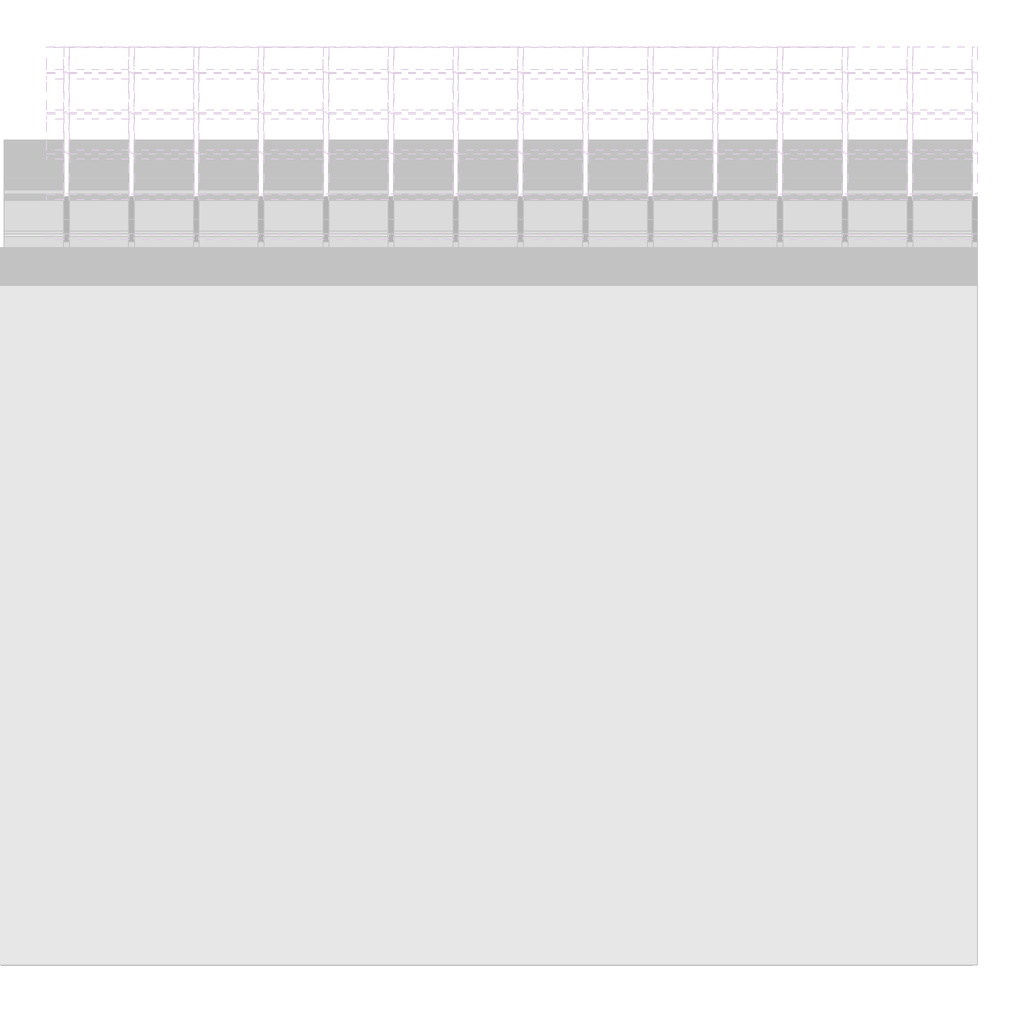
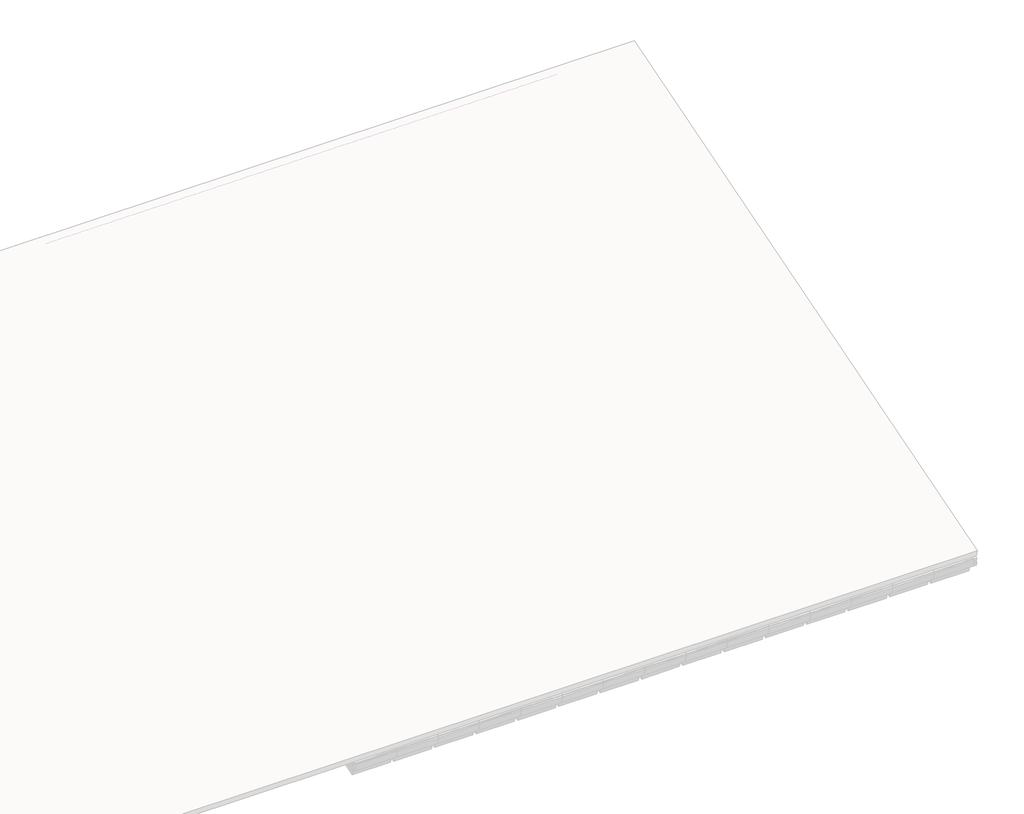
# One storey, part 47 of 57: 84 members, 40 plates.
"""IFC4 building model written with IfcOpenShell, lengths in millimetres."""

from ifc_helpers import new_model, si_unit, origin, place, context, project, spatial, transform, mapped, element, save
from components import rectangular_mullion_59984080, rectangular_mullion_2d2423ea, rectangular_mullion_caibro_e4384bba, rectangular_mullion_caibro_0993a3cf, rectangular_mullion_caibro_9bd7bc61, empty_system_panel_vazio_178faf58, empty_system_panel_vazio_2c78850d

model = new_model("IFC4")

# Units and contexts
model_context = context("Model", 3, world=origin())
ifc_project = project(units=[si_unit("LENGTHUNIT", "METRE", prefix="MILLI")], contexts=[model_context])

# Site, building, storey
site = spatial("IfcSite", under=ifc_project)
building = spatial("IfcBuilding", under=site)
storey = spatial("IfcBuildingStorey", under=building, Name="Nível 2", Elevation=4100.0)

# Members
placement = place(None, origin())
rectangular_mullion_shape = rectangular_mullion_59984080(model_context)
element("IfcMember", 1, ObjectType="Rectangular Mullion : Ripa", at=placement, inside=storey, context=model_context, shape_type="MappedRepresentation", body=[
    mapped(rectangular_mullion_shape, transform((38197.0207941, 8162.5832694, 3598.8241594), x_axis=(0.0, 0.9578262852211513, 0.2873478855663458), y_axis=(0.0, 0.2873478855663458, -0.9578262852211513), z_axis=(-1.0, 0.0, 0.0))),
])
element("IfcMember", 2, ObjectType="Rectangular Mullion : Ripa", at=placement, inside=storey, context=model_context, shape_type="MappedRepresentation", body=[
    mapped(rectangular_mullion_shape, transform((38794.0755505, 8162.5832694, 3598.8241594), x_axis=(0.0, 0.9578262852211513, 0.2873478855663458), y_axis=(0.0, 0.2873478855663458, -0.9578262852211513), z_axis=(-1.0, 0.0, 0.0))),
])
element("IfcMember", 3, ObjectType="Rectangular Mullion : Ripa", at=placement, inside=storey, context=model_context, shape_type="MappedRepresentation", body=[
    mapped(rectangular_mullion_shape, transform((39391.1303069, 8162.5832694, 3598.8241594), x_axis=(0.0, 0.9578262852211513, 0.2873478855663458), y_axis=(0.0, 0.2873478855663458, -0.9578262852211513), z_axis=(-1.0, 0.0, 0.0))),
])
element("IfcMember", 4, ObjectType="Rectangular Mullion : Ripa", at=placement, inside=storey, context=model_context, shape_type="MappedRepresentation", body=[
    mapped(rectangular_mullion_shape, transform((39988.1850634, 8162.5832694, 3598.8241594), x_axis=(0.0, 0.9578262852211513, 0.2873478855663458), y_axis=(0.0, 0.2873478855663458, -0.9578262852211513), z_axis=(-1.0, 0.0, 0.0))),
])
element("IfcMember", 5, ObjectType="Rectangular Mullion : Ripa", at=placement, inside=storey, context=model_context, shape_type="MappedRepresentation", body=[
    mapped(rectangular_mullion_shape, transform((38197.0207941, 8532.7605281, 3709.877337), x_axis=(0.0, 0.9578262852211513, 0.2873478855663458), y_axis=(0.0, 0.2873478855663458, -0.9578262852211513), z_axis=(-1.0, 0.0, 0.0))),
])
element("IfcMember", 6, ObjectType="Rectangular Mullion : Ripa", at=placement, inside=storey, context=model_context, shape_type="MappedRepresentation", body=[
    mapped(rectangular_mullion_shape, transform((38794.0755505, 8532.7605281, 3709.877337), x_axis=(0.0, 0.9578262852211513, 0.2873478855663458), y_axis=(0.0, 0.2873478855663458, -0.9578262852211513), z_axis=(-1.0, 0.0, 0.0))),
])
element("IfcMember", 7, ObjectType="Rectangular Mullion : Ripa", at=placement, inside=storey, context=model_context, shape_type="MappedRepresentation", body=[
    mapped(rectangular_mullion_shape, transform((39391.1303069, 8532.7605281, 3709.877337), x_axis=(0.0, 0.9578262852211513, 0.2873478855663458), y_axis=(0.0, 0.2873478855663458, -0.9578262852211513), z_axis=(-1.0, 0.0, 0.0))),
])
element("IfcMember", 8, ObjectType="Rectangular Mullion : Ripa", at=placement, inside=storey, context=model_context, shape_type="MappedRepresentation", body=[
    mapped(rectangular_mullion_shape, transform((39988.1850634, 8532.7605281, 3709.877337), x_axis=(0.0, 0.9578262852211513, 0.2873478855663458), y_axis=(0.0, 0.2873478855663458, -0.9578262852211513), z_axis=(-1.0, 0.0, 0.0))),
])
element("IfcMember", 9, ObjectType="Rectangular Mullion : Ripa", at=placement, inside=storey, context=model_context, shape_type="MappedRepresentation", body=[
    mapped(rectangular_mullion_shape, transform((38197.0207941, 8902.9377868, 3820.9305146), x_axis=(0.0, 0.9578262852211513, 0.2873478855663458), y_axis=(0.0, 0.2873478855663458, -0.9578262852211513), z_axis=(-1.0, 0.0, 0.0))),
])
element("IfcMember", 10, ObjectType="Rectangular Mullion : Ripa", at=placement, inside=storey, context=model_context, shape_type="MappedRepresentation", body=[
    mapped(rectangular_mullion_shape, transform((38794.0755505, 8902.9377868, 3820.9305146), x_axis=(0.0, 0.9578262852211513, 0.2873478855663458), y_axis=(0.0, 0.2873478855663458, -0.9578262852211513), z_axis=(-1.0, 0.0, 0.0))),
])
element("IfcMember", 11, ObjectType="Rectangular Mullion : Ripa", at=placement, inside=storey, context=model_context, shape_type="MappedRepresentation", body=[
    mapped(rectangular_mullion_shape, transform((39391.1303069, 8902.9377868, 3820.9305146), x_axis=(0.0, 0.9578262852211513, 0.2873478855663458), y_axis=(0.0, 0.2873478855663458, -0.9578262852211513), z_axis=(-1.0, 0.0, 0.0))),
])
element("IfcMember", 12, ObjectType="Rectangular Mullion : Ripa", at=placement, inside=storey, context=model_context, shape_type="MappedRepresentation", body=[
    mapped(rectangular_mullion_shape, transform((39988.1850634, 8902.9377868, 3820.9305146), x_axis=(0.0, 0.9578262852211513, 0.2873478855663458), y_axis=(0.0, 0.2873478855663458, -0.9578262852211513), z_axis=(-1.0, 0.0, 0.0))),
])
element("IfcMember", 13, ObjectType="Rectangular Mullion : Ripa", at=placement, inside=storey, context=model_context, shape_type="MappedRepresentation", body=[
    mapped(rectangular_mullion_shape, transform((37002.9112812, 9273.1150454, 3931.9836922), x_axis=(0.0, 0.9578262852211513, 0.2873478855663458), y_axis=(0.0, 0.2873478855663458, -0.9578262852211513), z_axis=(-1.0, 0.0, 0.0))),
])
element("IfcMember", 14, ObjectType="Rectangular Mullion : Ripa", at=placement, inside=storey, context=model_context, shape_type="MappedRepresentation", body=[
    mapped(rectangular_mullion_shape, transform((37599.9660377, 9273.1150454, 3931.9836922), x_axis=(0.0, 0.9578262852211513, 0.2873478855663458), y_axis=(0.0, 0.2873478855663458, -0.9578262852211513), z_axis=(-1.0, 0.0, 0.0))),
])
element("IfcMember", 15, ObjectType="Rectangular Mullion : Ripa", at=placement, inside=storey, context=model_context, shape_type="MappedRepresentation", body=[
    mapped(rectangular_mullion_shape, transform((38197.0207941, 9273.1150454, 3931.9836922), x_axis=(0.0, 0.9578262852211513, 0.2873478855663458), y_axis=(0.0, 0.2873478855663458, -0.9578262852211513), z_axis=(-1.0, 0.0, 0.0))),
])
element("IfcMember", 16, ObjectType="Rectangular Mullion : Ripa", at=placement, inside=storey, context=model_context, shape_type="MappedRepresentation", body=[
    mapped(rectangular_mullion_shape, transform((38794.0755505, 9273.1150454, 3931.9836922), x_axis=(0.0, 0.9578262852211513, 0.2873478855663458), y_axis=(0.0, 0.2873478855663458, -0.9578262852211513), z_axis=(-1.0, 0.0, 0.0))),
])
element("IfcMember", 17, ObjectType="Rectangular Mullion : Ripa", at=placement, inside=storey, context=model_context, shape_type="MappedRepresentation", body=[
    mapped(rectangular_mullion_shape, transform((39391.1303069, 9273.1150454, 3931.9836922), x_axis=(0.0, 0.9578262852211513, 0.2873478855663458), y_axis=(0.0, 0.2873478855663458, -0.9578262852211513), z_axis=(-1.0, 0.0, 0.0))),
])
element("IfcMember", 18, ObjectType="Rectangular Mullion : Ripa", at=placement, inside=storey, context=model_context, shape_type="MappedRepresentation", body=[
    mapped(rectangular_mullion_shape, transform((39988.1850634, 9273.1150454, 3931.9836922), x_axis=(0.0, 0.9578262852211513, 0.2873478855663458), y_axis=(0.0, 0.2873478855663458, -0.9578262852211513), z_axis=(-1.0, 0.0, 0.0))),
])
element("IfcMember", 19, ObjectType="Rectangular Mullion : Ripa", at=placement, inside=storey, context=model_context, shape_type="MappedRepresentation", body=[
    mapped(rectangular_mullion_shape, transform((37002.9112812, 9643.2923041, 4043.0368698), x_axis=(0.0, 0.9578262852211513, 0.2873478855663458), y_axis=(0.0, 0.2873478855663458, -0.9578262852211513), z_axis=(-1.0, 0.0, 0.0))),
])
element("IfcMember", 20, ObjectType="Rectangular Mullion : Ripa", at=placement, inside=storey, context=model_context, shape_type="MappedRepresentation", body=[
    mapped(rectangular_mullion_shape, transform((37599.9660377, 9643.2923041, 4043.0368698), x_axis=(0.0, 0.9578262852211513, 0.2873478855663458), y_axis=(0.0, 0.2873478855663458, -0.9578262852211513), z_axis=(-1.0, 0.0, 0.0))),
])
element("IfcMember", 21, ObjectType="Rectangular Mullion : Ripa", at=placement, inside=storey, context=model_context, shape_type="MappedRepresentation", body=[
    mapped(rectangular_mullion_shape, transform((38197.0207941, 9643.2923041, 4043.0368698), x_axis=(0.0, 0.9578262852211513, 0.2873478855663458), y_axis=(0.0, 0.2873478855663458, -0.9578262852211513), z_axis=(-1.0, 0.0, 0.0))),
])
element("IfcMember", 22, ObjectType="Rectangular Mullion : Ripa", at=placement, inside=storey, context=model_context, shape_type="MappedRepresentation", body=[
    mapped(rectangular_mullion_shape, transform((38794.0755505, 9643.2923041, 4043.0368698), x_axis=(0.0, 0.9578262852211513, 0.2873478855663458), y_axis=(0.0, 0.2873478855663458, -0.9578262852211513), z_axis=(-1.0, 0.0, 0.0))),
])
element("IfcMember", 23, ObjectType="Rectangular Mullion : Ripa", at=placement, inside=storey, context=model_context, shape_type="MappedRepresentation", body=[
    mapped(rectangular_mullion_shape, transform((39391.1303069, 9643.2923041, 4043.0368698), x_axis=(0.0, 0.9578262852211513, 0.2873478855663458), y_axis=(0.0, 0.2873478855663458, -0.9578262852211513), z_axis=(-1.0, 0.0, 0.0))),
])
element("IfcMember", 24, ObjectType="Rectangular Mullion : Ripa", at=placement, inside=storey, context=model_context, shape_type="MappedRepresentation", body=[
    mapped(rectangular_mullion_shape, transform((39988.1850634, 9643.2923041, 4043.0368698), x_axis=(0.0, 0.9578262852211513, 0.2873478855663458), y_axis=(0.0, 0.2873478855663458, -0.9578262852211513), z_axis=(-1.0, 0.0, 0.0))),
])
element("IfcMember", 25, ObjectType="Rectangular Mullion : Ripa", at=placement, inside=storey, context=model_context, shape_type="MappedRepresentation", body=[
    mapped(rectangular_mullion_shape, transform((36405.8565248, 10013.4695628, 4154.0900474), x_axis=(0.0, 0.9578262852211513, 0.2873478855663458), y_axis=(0.0, 0.2873478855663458, -0.9578262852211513), z_axis=(-1.0, 0.0, 0.0))),
])
element("IfcMember", 26, ObjectType="Rectangular Mullion : Ripa", at=placement, inside=storey, context=model_context, shape_type="MappedRepresentation", body=[
    mapped(rectangular_mullion_shape, transform((37002.9112812, 10013.4695628, 4154.0900474), x_axis=(0.0, 0.9578262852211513, 0.2873478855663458), y_axis=(0.0, 0.2873478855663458, -0.9578262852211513), z_axis=(-1.0, 0.0, 0.0))),
])
element("IfcMember", 27, ObjectType="Rectangular Mullion : Ripa", at=placement, inside=storey, context=model_context, shape_type="MappedRepresentation", body=[
    mapped(rectangular_mullion_shape, transform((37599.9660377, 10013.4695628, 4154.0900474), x_axis=(0.0, 0.9578262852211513, 0.2873478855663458), y_axis=(0.0, 0.2873478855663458, -0.9578262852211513), z_axis=(-1.0, 0.0, 0.0))),
])
element("IfcMember", 28, ObjectType="Rectangular Mullion : Ripa", at=placement, inside=storey, context=model_context, shape_type="MappedRepresentation", body=[
    mapped(rectangular_mullion_shape, transform((36405.8565248, 10383.6468214, 4265.143225), x_axis=(0.0, 0.9578262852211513, 0.2873478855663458), y_axis=(0.0, 0.2873478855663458, -0.9578262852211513), z_axis=(-1.0, 0.0, 0.0))),
])
element("IfcMember", 29, ObjectType="Rectangular Mullion : Ripa", at=placement, inside=storey, context=model_context, shape_type="MappedRepresentation", body=[
    mapped(rectangular_mullion_shape, transform((37002.9112812, 10383.6468214, 4265.143225), x_axis=(0.0, 0.9578262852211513, 0.2873478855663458), y_axis=(0.0, 0.2873478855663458, -0.9578262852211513), z_axis=(-1.0, 0.0, 0.0))),
])
element("IfcMember", 30, ObjectType="Rectangular Mullion : Ripa", at=placement, inside=storey, context=model_context, shape_type="MappedRepresentation", body=[
    mapped(rectangular_mullion_shape, transform((37599.9660377, 10383.6468214, 4265.143225), x_axis=(0.0, 0.9578262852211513, 0.2873478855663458), y_axis=(0.0, 0.2873478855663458, -0.9578262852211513), z_axis=(-1.0, 0.0, 0.0))),
])
element("IfcMember", 31, ObjectType="Rectangular Mullion : Ripa", at=placement, inside=storey, context=model_context, shape_type="MappedRepresentation", body=[
    mapped(rectangular_mullion_shape, transform((36405.8565248, 10753.8240801, 4376.1964026), x_axis=(0.0, 0.9578262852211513, 0.2873478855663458), y_axis=(0.0, 0.2873478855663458, -0.9578262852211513), z_axis=(-1.0, 0.0, 0.0))),
])
element("IfcMember", 32, ObjectType="Rectangular Mullion : Ripa", at=placement, inside=storey, context=model_context, shape_type="MappedRepresentation", body=[
    mapped(rectangular_mullion_shape, transform((37002.9112812, 10753.8240801, 4376.1964026), x_axis=(0.0, 0.9578262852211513, 0.2873478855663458), y_axis=(0.0, 0.2873478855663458, -0.9578262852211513), z_axis=(-1.0, 0.0, 0.0))),
])
element("IfcMember", 33, ObjectType="Rectangular Mullion : Ripa", at=placement, inside=storey, context=model_context, shape_type="MappedRepresentation", body=[
    mapped(rectangular_mullion_shape, transform((37599.9660377, 10753.8240801, 4376.1964026), x_axis=(0.0, 0.9578262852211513, 0.2873478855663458), y_axis=(0.0, 0.2873478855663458, -0.9578262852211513), z_axis=(-1.0, 0.0, 0.0))),
])
element("IfcMember", 34, ObjectType="Rectangular Mullion : Ripa", at=placement, inside=storey, context=model_context, shape_type="MappedRepresentation", body=[
    mapped(rectangular_mullion_shape, transform((36405.8565248, 11124.0013387, 4487.2495802), x_axis=(0.0, 0.9578262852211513, 0.2873478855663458), y_axis=(0.0, 0.2873478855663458, -0.9578262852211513), z_axis=(-1.0, 0.0, 0.0))),
])
element("IfcMember", 35, ObjectType="Rectangular Mullion : Ripa", at=placement, inside=storey, context=model_context, shape_type="MappedRepresentation", body=[
    mapped(rectangular_mullion_shape, transform((36405.8565248, 11494.1785974, 4598.3027578), x_axis=(0.0, 0.9578262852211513, 0.2873478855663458), y_axis=(0.0, 0.2873478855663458, -0.9578262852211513), z_axis=(-1.0, 0.0, 0.0))),
])
element("IfcMember", 36, ObjectType="Rectangular Mullion : Ripa", at=placement, inside=storey, context=model_context, shape_type="MappedRepresentation", body=[
    mapped(rectangular_mullion_shape, transform((36405.8565248, 11864.3558561, 4709.3559354), x_axis=(0.0, 0.9578262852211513, 0.2873478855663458), y_axis=(0.0, 0.2873478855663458, -0.9578262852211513), z_axis=(-1.0, 0.0, 0.0))),
])
rectangular_mullion_2_shape = rectangular_mullion_2d2423ea(model_context)
element("IfcMember", 37, ObjectType="Rectangular Mullion : Terça", at=placement, inside=storey, context=model_context, shape_type="MappedRepresentation", body=[
    mapped(rectangular_mullion_2_shape, transform((37002.9112812, 9159.0196393, 3835.1132313), x_axis=(0.0, 0.9578262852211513, 0.2873478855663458), y_axis=(0.0, 0.2873478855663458, -0.9578262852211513), z_axis=(-1.0, 0.0, 0.0))),
])
element("IfcMember", 38, ObjectType="Rectangular Mullion : Terça", at=placement, inside=storey, context=model_context, shape_type="MappedRepresentation", body=[
    mapped(rectangular_mullion_2_shape, transform((37599.9660377, 9159.0196393, 3835.1132313), x_axis=(0.0, 0.9578262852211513, 0.2873478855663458), y_axis=(0.0, 0.2873478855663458, -0.9578262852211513), z_axis=(-1.0, 0.0, 0.0))),
])
element("IfcMember", 39, ObjectType="Rectangular Mullion : Terça", at=placement, inside=storey, context=model_context, shape_type="MappedRepresentation", body=[
    mapped(rectangular_mullion_2_shape, transform((38197.0207941, 9159.0196393, 3835.1132313), x_axis=(0.0, 0.9578262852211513, 0.2873478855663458), y_axis=(0.0, 0.2873478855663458, -0.9578262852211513), z_axis=(-1.0, 0.0, 0.0))),
])
element("IfcMember", 40, ObjectType="Rectangular Mullion : Terça", at=placement, inside=storey, context=model_context, shape_type="MappedRepresentation", body=[
    mapped(rectangular_mullion_2_shape, transform((38794.0755505, 9159.0196393, 3835.1132313), x_axis=(0.0, 0.9578262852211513, 0.2873478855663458), y_axis=(0.0, 0.2873478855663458, -0.9578262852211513), z_axis=(-1.0, 0.0, 0.0))),
])
element("IfcMember", 41, ObjectType="Rectangular Mullion : Terça", at=placement, inside=storey, context=model_context, shape_type="MappedRepresentation", body=[
    mapped(rectangular_mullion_2_shape, transform((39391.1303069, 9159.0196393, 3835.1132313), x_axis=(0.0, 0.9578262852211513, 0.2873478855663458), y_axis=(0.0, 0.2873478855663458, -0.9578262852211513), z_axis=(-1.0, 0.0, 0.0))),
])
element("IfcMember", 42, ObjectType="Rectangular Mullion : Terça", at=placement, inside=storey, context=model_context, shape_type="MappedRepresentation", body=[
    mapped(rectangular_mullion_2_shape, transform((39988.1850634, 9159.0196393, 3835.1132313), x_axis=(0.0, 0.9578262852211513, 0.2873478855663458), y_axis=(0.0, 0.2873478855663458, -0.9578262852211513), z_axis=(-1.0, 0.0, 0.0))),
])
rectangular_mullion_caibro_shape = rectangular_mullion_caibro_e4384bba(model_context)
element("IfcMember", 43, ObjectType="Rectangular Mullion : Caibro", at=placement, inside=storey, context=model_context, shape_type="MappedRepresentation", body=[
    mapped(rectangular_mullion_caibro_shape, transform((36380.8565248, 10013.4695628, 4154.0900474), x_axis=(1.0, 0.0, 0.0), y_axis=(0.0, 0.28734788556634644, -0.9578262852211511), z_axis=(0.0, 0.957826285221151, 0.2873478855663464))),
])
element("IfcMember", 44, ObjectType="Rectangular Mullion : Caibro", at=placement, inside=storey, context=model_context, shape_type="MappedRepresentation", body=[
    mapped(rectangular_mullion_caibro_shape, transform((36380.8565248, 10383.6468214, 4265.143225), x_axis=(1.0, 0.0, 0.0), y_axis=(0.0, 0.28734788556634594, -0.9578262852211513), z_axis=(0.0, 0.9578262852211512, 0.2873478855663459))),
])
element("IfcMember", 45, ObjectType="Rectangular Mullion : Caibro", at=placement, inside=storey, context=model_context, shape_type="MappedRepresentation", body=[
    mapped(rectangular_mullion_caibro_shape, transform((36380.8565248, 10753.8240801, 4376.1964026), x_axis=(1.0, 0.0, 0.0), y_axis=(0.0, 0.28734788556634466, -0.9578262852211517), z_axis=(0.0, 0.9578262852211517, 0.28734788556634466))),
])
element("IfcMember", 46, ObjectType="Rectangular Mullion : Caibro", at=placement, inside=storey, context=model_context, shape_type="MappedRepresentation", body=[
    mapped(rectangular_mullion_caibro_shape, transform((36380.8565248, 11124.0013387, 4487.2495802), x_axis=(1.0, 0.0, 0.0), y_axis=(0.0, 0.2873478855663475, -0.9578262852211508), z_axis=(0.0, 0.9578262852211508, 0.2873478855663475))),
])
element("IfcMember", 47, ObjectType="Rectangular Mullion : Caibro", at=placement, inside=storey, context=model_context, shape_type="MappedRepresentation", body=[
    mapped(rectangular_mullion_caibro_shape, transform((36380.8565248, 11494.1785974, 4598.3027578), x_axis=(1.0, 0.0, 0.0), y_axis=(0.0, 0.28734788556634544, -0.9578262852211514), z_axis=(0.0, 0.9578262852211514, 0.28734788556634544))),
])
element("IfcMember", 48, ObjectType="Rectangular Mullion : Caibro", at=placement, inside=storey, context=model_context, shape_type="MappedRepresentation", body=[
    mapped(rectangular_mullion_caibro_shape, transform((36380.8565248, 11864.3558561, 4709.3559354), x_axis=(1.0, 0.0, 0.0), y_axis=(0.0, 0.28734788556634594, -0.9578262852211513), z_axis=(0.0, 0.9578262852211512, 0.2873478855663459))),
])
element("IfcMember", 49, ObjectType="Rectangular Mullion : Caibro", at=placement, inside=storey, context=model_context, shape_type="MappedRepresentation", body=[
    mapped(rectangular_mullion_caibro_shape, transform((36977.9112812, 10013.4695628, 4154.0900474), x_axis=(1.0, 0.0, 0.0), y_axis=(0.0, 0.28734788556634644, -0.9578262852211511), z_axis=(0.0, 0.957826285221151, 0.2873478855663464))),
])
element("IfcMember", 50, ObjectType="Rectangular Mullion : Caibro", at=placement, inside=storey, context=model_context, shape_type="MappedRepresentation", body=[
    mapped(rectangular_mullion_caibro_shape, transform((36977.9112812, 10383.6468214, 4265.143225), x_axis=(1.0, 0.0, 0.0), y_axis=(0.0, 0.28734788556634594, -0.9578262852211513), z_axis=(0.0, 0.9578262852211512, 0.2873478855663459))),
])
element("IfcMember", 51, ObjectType="Rectangular Mullion : Caibro", at=placement, inside=storey, context=model_context, shape_type="MappedRepresentation", body=[
    mapped(rectangular_mullion_caibro_shape, transform((36977.9112812, 10753.8240801, 4376.1964026), x_axis=(1.0, 0.0, 0.0), y_axis=(0.0, 0.28734788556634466, -0.9578262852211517), z_axis=(0.0, 0.9578262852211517, 0.28734788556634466))),
])
element("IfcMember", 52, ObjectType="Rectangular Mullion : Caibro", at=placement, inside=storey, context=model_context, shape_type="MappedRepresentation", body=[
    mapped(rectangular_mullion_caibro_shape, transform((36977.9112812, 11124.0013387, 4487.2495802), x_axis=(1.0, 0.0, 0.0), y_axis=(0.0, 0.2873478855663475, -0.9578262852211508), z_axis=(0.0, 0.9578262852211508, 0.2873478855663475))),
])
element("IfcMember", 53, ObjectType="Rectangular Mullion : Caibro", at=placement, inside=storey, context=model_context, shape_type="MappedRepresentation", body=[
    mapped(rectangular_mullion_caibro_shape, transform((36977.9112812, 11494.1785974, 4598.3027578), x_axis=(1.0, 0.0, 0.0), y_axis=(0.0, 0.28734788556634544, -0.9578262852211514), z_axis=(0.0, 0.9578262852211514, 0.28734788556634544))),
])
element("IfcMember", 54, ObjectType="Rectangular Mullion : Caibro", at=placement, inside=storey, context=model_context, shape_type="MappedRepresentation", body=[
    mapped(rectangular_mullion_caibro_shape, transform((36977.9112812, 11864.3558561, 4709.3559354), x_axis=(1.0, 0.0, 0.0), y_axis=(0.0, 0.28734788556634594, -0.9578262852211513), z_axis=(0.0, 0.9578262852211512, 0.2873478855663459))),
])
element("IfcMember", 55, ObjectType="Rectangular Mullion : Caibro", at=placement, inside=storey, context=model_context, shape_type="MappedRepresentation", body=[
    mapped(rectangular_mullion_caibro_shape, transform((37574.9660377, 10013.4695628, 4154.0900474), x_axis=(1.0, 0.0, 0.0), y_axis=(0.0, 0.28734788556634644, -0.9578262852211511), z_axis=(0.0, 0.957826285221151, 0.2873478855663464))),
])
element("IfcMember", 56, ObjectType="Rectangular Mullion : Caibro", at=placement, inside=storey, context=model_context, shape_type="MappedRepresentation", body=[
    mapped(rectangular_mullion_caibro_shape, transform((37574.9660377, 10383.6468214, 4265.143225), x_axis=(1.0, 0.0, 0.0), y_axis=(0.0, 0.28734788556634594, -0.9578262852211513), z_axis=(0.0, 0.9578262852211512, 0.2873478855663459))),
])
element("IfcMember", 57, ObjectType="Rectangular Mullion : Caibro", at=placement, inside=storey, context=model_context, shape_type="MappedRepresentation", body=[
    mapped(rectangular_mullion_caibro_shape, transform((37574.9660377, 10753.8240801, 4376.1964026), x_axis=(1.0, 0.0, 0.0), y_axis=(0.0, 0.28734788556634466, -0.9578262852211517), z_axis=(0.0, 0.9578262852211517, 0.28734788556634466))),
])
element("IfcMember", 58, ObjectType="Rectangular Mullion : Caibro", at=placement, inside=storey, context=model_context, shape_type="MappedRepresentation", body=[
    mapped(rectangular_mullion_caibro_shape, transform((38172.0207941, 8162.5832694, 3598.8241594), x_axis=(1.0, 0.0, 0.0), y_axis=(0.0, 0.28734788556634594, -0.9578262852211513), z_axis=(0.0, 0.9578262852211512, 0.2873478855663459))),
])
element("IfcMember", 59, ObjectType="Rectangular Mullion : Caibro", at=placement, inside=storey, context=model_context, shape_type="MappedRepresentation", body=[
    mapped(rectangular_mullion_caibro_shape, transform((38172.0207941, 8532.7605281, 3709.877337), x_axis=(1.0, 0.0, 0.0), y_axis=(0.0, 0.2873478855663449, -0.9578262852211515), z_axis=(0.0, 0.9578262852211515, 0.2873478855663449))),
])
element("IfcMember", 60, ObjectType="Rectangular Mullion : Caibro", at=placement, inside=storey, context=model_context, shape_type="MappedRepresentation", body=[
    mapped(rectangular_mullion_caibro_shape, transform((38172.0207941, 8902.9377868, 3820.9305146), x_axis=(1.0, 0.0, 0.0), y_axis=(0.0, 0.2873478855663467, -0.9578262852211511), z_axis=(0.0, 0.9578262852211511, 0.2873478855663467))),
])
element("IfcMember", 61, ObjectType="Rectangular Mullion : Caibro", at=placement, inside=storey, context=model_context, shape_type="MappedRepresentation", body=[
    mapped(rectangular_mullion_caibro_shape, transform((38172.0207941, 9273.1150454, 3931.9836922), x_axis=(1.0, 0.0, 0.0), y_axis=(0.0, 0.2873478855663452, -0.9578262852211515), z_axis=(0.0, 0.9578262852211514, 0.28734788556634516))),
])
element("IfcMember", 62, ObjectType="Rectangular Mullion : Caibro", at=placement, inside=storey, context=model_context, shape_type="MappedRepresentation", body=[
    mapped(rectangular_mullion_caibro_shape, transform((38172.0207941, 9643.2923041, 4043.0368698), x_axis=(1.0, 0.0, 0.0), y_axis=(0.0, 0.2873478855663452, -0.9578262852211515), z_axis=(0.0, 0.9578262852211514, 0.28734788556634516))),
])
element("IfcMember", 63, ObjectType="Rectangular Mullion : Caibro", at=placement, inside=storey, context=model_context, shape_type="MappedRepresentation", body=[
    mapped(rectangular_mullion_caibro_shape, transform((38769.0755505, 8162.5832694, 3598.8241594), x_axis=(1.0, 0.0, 0.0), y_axis=(0.0, 0.28734788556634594, -0.9578262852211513), z_axis=(0.0, 0.9578262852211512, 0.2873478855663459))),
])
element("IfcMember", 64, ObjectType="Rectangular Mullion : Caibro", at=placement, inside=storey, context=model_context, shape_type="MappedRepresentation", body=[
    mapped(rectangular_mullion_caibro_shape, transform((38769.0755505, 8532.7605281, 3709.877337), x_axis=(1.0, 0.0, 0.0), y_axis=(0.0, 0.2873478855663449, -0.9578262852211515), z_axis=(0.0, 0.9578262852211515, 0.2873478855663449))),
])
element("IfcMember", 65, ObjectType="Rectangular Mullion : Caibro", at=placement, inside=storey, context=model_context, shape_type="MappedRepresentation", body=[
    mapped(rectangular_mullion_caibro_shape, transform((38769.0755505, 8902.9377868, 3820.9305146), x_axis=(1.0, 0.0, 0.0), y_axis=(0.0, 0.2873478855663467, -0.9578262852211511), z_axis=(0.0, 0.9578262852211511, 0.2873478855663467))),
])
element("IfcMember", 66, ObjectType="Rectangular Mullion : Caibro", at=placement, inside=storey, context=model_context, shape_type="MappedRepresentation", body=[
    mapped(rectangular_mullion_caibro_shape, transform((38769.0755505, 9273.1150454, 3931.9836922), x_axis=(1.0, 0.0, 0.0), y_axis=(0.0, 0.2873478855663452, -0.9578262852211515), z_axis=(0.0, 0.9578262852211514, 0.28734788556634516))),
])
element("IfcMember", 67, ObjectType="Rectangular Mullion : Caibro", at=placement, inside=storey, context=model_context, shape_type="MappedRepresentation", body=[
    mapped(rectangular_mullion_caibro_shape, transform((38769.0755505, 9643.2923041, 4043.0368698), x_axis=(1.0, 0.0, 0.0), y_axis=(0.0, 0.2873478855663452, -0.9578262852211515), z_axis=(0.0, 0.9578262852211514, 0.28734788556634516))),
])
element("IfcMember", 68, ObjectType="Rectangular Mullion : Caibro", at=placement, inside=storey, context=model_context, shape_type="MappedRepresentation", body=[
    mapped(rectangular_mullion_caibro_shape, transform((39366.1303069, 8162.5832694, 3598.8241594), x_axis=(1.0, 0.0, 0.0), y_axis=(0.0, 0.28734788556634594, -0.9578262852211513), z_axis=(0.0, 0.9578262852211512, 0.2873478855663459))),
])
element("IfcMember", 69, ObjectType="Rectangular Mullion : Caibro", at=placement, inside=storey, context=model_context, shape_type="MappedRepresentation", body=[
    mapped(rectangular_mullion_caibro_shape, transform((39366.1303069, 8532.7605281, 3709.877337), x_axis=(1.0, 0.0, 0.0), y_axis=(0.0, 0.2873478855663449, -0.9578262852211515), z_axis=(0.0, 0.9578262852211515, 0.2873478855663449))),
])
element("IfcMember", 70, ObjectType="Rectangular Mullion : Caibro", at=placement, inside=storey, context=model_context, shape_type="MappedRepresentation", body=[
    mapped(rectangular_mullion_caibro_shape, transform((39366.1303069, 8902.9377868, 3820.9305146), x_axis=(1.0, 0.0, 0.0), y_axis=(0.0, 0.2873478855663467, -0.9578262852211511), z_axis=(0.0, 0.9578262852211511, 0.2873478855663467))),
])
element("IfcMember", 71, ObjectType="Rectangular Mullion : Caibro", at=placement, inside=storey, context=model_context, shape_type="MappedRepresentation", body=[
    mapped(rectangular_mullion_caibro_shape, transform((39366.1303069, 9273.1150454, 3931.9836922), x_axis=(1.0, 0.0, 0.0), y_axis=(0.0, 0.2873478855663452, -0.9578262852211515), z_axis=(0.0, 0.9578262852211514, 0.28734788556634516))),
])
element("IfcMember", 72, ObjectType="Rectangular Mullion : Caibro", at=placement, inside=storey, context=model_context, shape_type="MappedRepresentation", body=[
    mapped(rectangular_mullion_caibro_shape, transform((39366.1303069, 9643.2923041, 4043.0368698), x_axis=(1.0, 0.0, 0.0), y_axis=(0.0, 0.2873478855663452, -0.9578262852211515), z_axis=(0.0, 0.9578262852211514, 0.28734788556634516))),
])
element("IfcMember", 73, ObjectType="Rectangular Mullion : Caibro", at=placement, inside=storey, context=model_context, shape_type="MappedRepresentation", body=[
    mapped(rectangular_mullion_caibro_shape, transform((39963.1850634, 8162.5832694, 3598.8241594), x_axis=(1.0, 0.0, 0.0), y_axis=(0.0, 0.28734788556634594, -0.9578262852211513), z_axis=(0.0, 0.9578262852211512, 0.2873478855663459))),
])
element("IfcMember", 74, ObjectType="Rectangular Mullion : Caibro", at=placement, inside=storey, context=model_context, shape_type="MappedRepresentation", body=[
    mapped(rectangular_mullion_caibro_shape, transform((39963.1850634, 8532.7605281, 3709.877337), x_axis=(1.0, 0.0, 0.0), y_axis=(0.0, 0.2873478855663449, -0.9578262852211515), z_axis=(0.0, 0.9578262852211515, 0.2873478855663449))),
])
element("IfcMember", 75, ObjectType="Rectangular Mullion : Caibro", at=placement, inside=storey, context=model_context, shape_type="MappedRepresentation", body=[
    mapped(rectangular_mullion_caibro_shape, transform((39963.1850634, 8902.9377868, 3820.9305146), x_axis=(1.0, 0.0, 0.0), y_axis=(0.0, 0.2873478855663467, -0.9578262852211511), z_axis=(0.0, 0.9578262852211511, 0.2873478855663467))),
])
element("IfcMember", 76, ObjectType="Rectangular Mullion : Caibro", at=placement, inside=storey, context=model_context, shape_type="MappedRepresentation", body=[
    mapped(rectangular_mullion_caibro_shape, transform((39963.1850634, 9273.1150454, 3931.9836922), x_axis=(1.0, 0.0, 0.0), y_axis=(0.0, 0.2873478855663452, -0.9578262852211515), z_axis=(0.0, 0.9578262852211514, 0.28734788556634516))),
])
element("IfcMember", 77, ObjectType="Rectangular Mullion : Caibro", at=placement, inside=storey, context=model_context, shape_type="MappedRepresentation", body=[
    mapped(rectangular_mullion_caibro_shape, transform((39963.1850634, 9643.2923041, 4043.0368698), x_axis=(1.0, 0.0, 0.0), y_axis=(0.0, 0.2873478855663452, -0.9578262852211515), z_axis=(0.0, 0.9578262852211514, 0.28734788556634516))),
])
rectangular_mullion_caibro_2_shape = rectangular_mullion_caibro_0993a3cf(model_context)
element("IfcMember", 78, ObjectType="Rectangular Mullion : Caibro", at=placement, inside=storey, context=model_context, shape_type="MappedRepresentation", body=[
    mapped(rectangular_mullion_caibro_2_shape, transform((37574.9660377, 9159.0196393, 3835.1132313), x_axis=(1.0, 0.0, 0.0), y_axis=(0.0, 0.2873478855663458, -0.9578262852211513), z_axis=(0.0, 0.9578262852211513, 0.2873478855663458))),
])
element("IfcMember", 79, ObjectType="Rectangular Mullion : Caibro", at=placement, inside=storey, context=model_context, shape_type="MappedRepresentation", body=[
    mapped(rectangular_mullion_caibro_2_shape, transform((38172.0207941, 9159.0196393, 3835.1132313), x_axis=(1.0, 0.0, 0.0), y_axis=(0.0, 0.2873478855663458, -0.9578262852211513), z_axis=(0.0, 0.9578262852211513, 0.2873478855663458))),
])
element("IfcMember", 80, ObjectType="Rectangular Mullion : Caibro", at=placement, inside=storey, context=model_context, shape_type="MappedRepresentation", body=[
    mapped(rectangular_mullion_caibro_2_shape, transform((38769.0755505, 9159.0196393, 3835.1132313), x_axis=(1.0, 0.0, 0.0), y_axis=(0.0, 0.2873478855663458, -0.9578262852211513), z_axis=(0.0, 0.9578262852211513, 0.2873478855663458))),
])
element("IfcMember", 81, ObjectType="Rectangular Mullion : Caibro", at=placement, inside=storey, context=model_context, shape_type="MappedRepresentation", body=[
    mapped(rectangular_mullion_caibro_2_shape, transform((39366.1303069, 9159.0196393, 3835.1132313), x_axis=(1.0, 0.0, 0.0), y_axis=(0.0, 0.2873478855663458, -0.9578262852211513), z_axis=(0.0, 0.9578262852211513, 0.2873478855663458))),
])
element("IfcMember", 82, ObjectType="Rectangular Mullion : Caibro", at=placement, inside=storey, context=model_context, shape_type="MappedRepresentation", body=[
    mapped(rectangular_mullion_caibro_2_shape, transform((39963.1850634, 9159.0196393, 3835.1132313), x_axis=(1.0, 0.0, 0.0), y_axis=(0.0, 0.2873478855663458, -0.9578262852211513), z_axis=(0.0, 0.9578262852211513, 0.2873478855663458))),
])
rectangular_mullion_caibro_3_shape = rectangular_mullion_caibro_9bd7bc61(model_context)
element("IfcMember", 83, ObjectType="Rectangular Mullion : Caibro", at=placement, inside=storey, context=model_context, shape_type="MappedRepresentation", body=[
    mapped(rectangular_mullion_caibro_3_shape, transform((36380.8565248, 11285.144311, 4472.9506328), x_axis=(1.0, 0.0, 0.0), y_axis=(0.0, 0.28734788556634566, -0.9578262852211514), z_axis=(0.0, 0.9578262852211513, 0.2873478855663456))),
])
element("IfcMember", 84, ObjectType="Rectangular Mullion : Caibro", at=placement, inside=storey, context=model_context, shape_type="MappedRepresentation", body=[
    mapped(rectangular_mullion_caibro_3_shape, transform((36977.9112812, 11285.144311, 4472.9506328), x_axis=(1.0, 0.0, 0.0), y_axis=(0.0, 0.28734788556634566, -0.9578262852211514), z_axis=(0.0, 0.9578262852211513, 0.2873478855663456))),
])

# Plates
empty_system_panel_vazio_shape = empty_system_panel_vazio_178faf58(model_context)
element("IfcPlate", 85, ObjectType="Empty System Panel : Vazio", at=placement, inside=storey, context=model_context, shape_type="MappedRepresentation", body=[
    mapped(empty_system_panel_vazio_shape, transform((38470.5481723, 8162.5832694, 3598.8241594), x_axis=(1.0, 0.0, 0.0), y_axis=(0.0, 0.2873478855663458, -0.9578262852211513), z_axis=(0.0, 0.9578262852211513, 0.2873478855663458))),
])
element("IfcPlate", 86, ObjectType="Empty System Panel : Vazio", at=placement, inside=storey, context=model_context, shape_type="MappedRepresentation", body=[
    mapped(empty_system_panel_vazio_shape, transform((39067.6029287, 8162.5832694, 3598.8241594), x_axis=(1.0, 0.0, 0.0), y_axis=(0.0, 0.2873478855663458, -0.9578262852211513), z_axis=(0.0, 0.9578262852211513, 0.2873478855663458))),
])
element("IfcPlate", 87, ObjectType="Empty System Panel : Vazio", at=placement, inside=storey, context=model_context, shape_type="MappedRepresentation", body=[
    mapped(empty_system_panel_vazio_shape, transform((39664.6576851, 8162.5832694, 3598.8241594), x_axis=(1.0, 0.0, 0.0), y_axis=(0.0, 0.2873478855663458, -0.9578262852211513), z_axis=(0.0, 0.9578262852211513, 0.2873478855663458))),
])
element("IfcPlate", 88, ObjectType="Empty System Panel : Vazio", at=placement, inside=storey, context=model_context, shape_type="MappedRepresentation", body=[
    mapped(empty_system_panel_vazio_shape, transform((38470.5481723, 8532.7605281, 3709.877337), x_axis=(1.0, 0.0, 0.0), y_axis=(0.0, 0.2873478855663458, -0.9578262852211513), z_axis=(0.0, 0.9578262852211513, 0.2873478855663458))),
])
element("IfcPlate", 89, ObjectType="Empty System Panel : Vazio", at=placement, inside=storey, context=model_context, shape_type="MappedRepresentation", body=[
    mapped(empty_system_panel_vazio_shape, transform((39067.6029287, 8532.7605281, 3709.877337), x_axis=(1.0, 0.0, 0.0), y_axis=(0.0, 0.2873478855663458, -0.9578262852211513), z_axis=(0.0, 0.9578262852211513, 0.2873478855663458))),
])
element("IfcPlate", 90, ObjectType="Empty System Panel : Vazio", at=placement, inside=storey, context=model_context, shape_type="MappedRepresentation", body=[
    mapped(empty_system_panel_vazio_shape, transform((39664.6576851, 8532.7605281, 3709.877337), x_axis=(1.0, 0.0, 0.0), y_axis=(0.0, 0.2873478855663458, -0.9578262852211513), z_axis=(0.0, 0.9578262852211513, 0.2873478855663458))),
])
element("IfcPlate", 91, ObjectType="Empty System Panel : Vazio", at=placement, inside=storey, context=model_context, shape_type="MappedRepresentation", body=[
    mapped(empty_system_panel_vazio_shape, transform((38470.5481723, 8902.9377868, 3820.9305146), x_axis=(1.0, 0.0, 0.0), y_axis=(0.0, 0.2873478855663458, -0.9578262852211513), z_axis=(0.0, 0.9578262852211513, 0.2873478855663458))),
])
element("IfcPlate", 92, ObjectType="Empty System Panel : Vazio", at=placement, inside=storey, context=model_context, shape_type="MappedRepresentation", body=[
    mapped(empty_system_panel_vazio_shape, transform((39067.6029287, 8902.9377868, 3820.9305146), x_axis=(1.0, 0.0, 0.0), y_axis=(0.0, 0.2873478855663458, -0.9578262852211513), z_axis=(0.0, 0.9578262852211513, 0.2873478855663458))),
])
element("IfcPlate", 93, ObjectType="Empty System Panel : Vazio", at=placement, inside=storey, context=model_context, shape_type="MappedRepresentation", body=[
    mapped(empty_system_panel_vazio_shape, transform((39664.6576851, 8902.9377868, 3820.9305146), x_axis=(1.0, 0.0, 0.0), y_axis=(0.0, 0.2873478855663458, -0.9578262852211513), z_axis=(0.0, 0.9578262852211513, 0.2873478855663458))),
])
element("IfcPlate", 94, ObjectType="Empty System Panel : Vazio", at=placement, inside=storey, context=model_context, shape_type="MappedRepresentation", body=[
    mapped(empty_system_panel_vazio_shape, transform((38470.5481723, 9273.1150454, 3931.9836922), x_axis=(1.0, 0.0, 0.0), y_axis=(0.0, 0.2873478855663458, -0.9578262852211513), z_axis=(0.0, 0.9578262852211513, 0.2873478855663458))),
])
element("IfcPlate", 95, ObjectType="Empty System Panel : Vazio", at=placement, inside=storey, context=model_context, shape_type="MappedRepresentation", body=[
    mapped(empty_system_panel_vazio_shape, transform((39067.6029287, 9273.1150454, 3931.9836922), x_axis=(1.0, 0.0, 0.0), y_axis=(0.0, 0.2873478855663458, -0.9578262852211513), z_axis=(0.0, 0.9578262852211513, 0.2873478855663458))),
])
element("IfcPlate", 96, ObjectType="Empty System Panel : Vazio", at=placement, inside=storey, context=model_context, shape_type="MappedRepresentation", body=[
    mapped(empty_system_panel_vazio_shape, transform((39664.6576851, 9273.1150454, 3931.9836922), x_axis=(1.0, 0.0, 0.0), y_axis=(0.0, 0.2873478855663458, -0.9578262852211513), z_axis=(0.0, 0.9578262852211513, 0.2873478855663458))),
])
element("IfcPlate", 97, ObjectType="Empty System Panel : Vazio", at=placement, inside=storey, context=model_context, shape_type="MappedRepresentation", body=[
    mapped(empty_system_panel_vazio_shape, transform((38470.5481723, 9643.2923041, 4043.0368698), x_axis=(1.0, 0.0, 0.0), y_axis=(0.0, 0.2873478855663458, -0.9578262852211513), z_axis=(0.0, 0.9578262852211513, 0.2873478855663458))),
])
element("IfcPlate", 98, ObjectType="Empty System Panel : Vazio", at=placement, inside=storey, context=model_context, shape_type="MappedRepresentation", body=[
    mapped(empty_system_panel_vazio_shape, transform((39067.6029287, 9643.2923041, 4043.0368698), x_axis=(1.0, 0.0, 0.0), y_axis=(0.0, 0.2873478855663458, -0.9578262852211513), z_axis=(0.0, 0.9578262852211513, 0.2873478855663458))),
])
element("IfcPlate", 99, ObjectType="Empty System Panel : Vazio", at=placement, inside=storey, context=model_context, shape_type="MappedRepresentation", body=[
    mapped(empty_system_panel_vazio_shape, transform((39664.6576851, 9643.2923041, 4043.0368698), x_axis=(1.0, 0.0, 0.0), y_axis=(0.0, 0.2873478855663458, -0.9578262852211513), z_axis=(0.0, 0.9578262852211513, 0.2873478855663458))),
])
element("IfcPlate", 100, ObjectType="Empty System Panel : Vazio", at=placement, inside=storey, context=model_context, shape_type="MappedRepresentation", body=[
    mapped(empty_system_panel_vazio_shape, transform((36082.3291466, 10013.4695628, 4154.0900474), x_axis=(1.0, 0.0, 0.0), y_axis=(0.0, 0.2873478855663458, -0.9578262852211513), z_axis=(0.0, 0.9578262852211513, 0.2873478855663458))),
])
element("IfcPlate", 101, ObjectType="Empty System Panel : Vazio", at=placement, inside=storey, context=model_context, shape_type="MappedRepresentation", body=[
    mapped(empty_system_panel_vazio_shape, transform((36679.383903, 10013.4695628, 4154.0900474), x_axis=(1.0, 0.0, 0.0), y_axis=(0.0, 0.2873478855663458, -0.9578262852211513), z_axis=(0.0, 0.9578262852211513, 0.2873478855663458))),
])
element("IfcPlate", 102, ObjectType="Empty System Panel : Vazio", at=placement, inside=storey, context=model_context, shape_type="MappedRepresentation", body=[
    mapped(empty_system_panel_vazio_shape, transform((37276.4386594, 10013.4695628, 4154.0900474), x_axis=(1.0, 0.0, 0.0), y_axis=(0.0, 0.2873478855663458, -0.9578262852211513), z_axis=(0.0, 0.9578262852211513, 0.2873478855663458))),
])
element("IfcPlate", 103, ObjectType="Empty System Panel : Vazio", at=placement, inside=storey, context=model_context, shape_type="MappedRepresentation", body=[
    mapped(empty_system_panel_vazio_shape, transform((37873.4934159, 10013.4695628, 4154.0900474), x_axis=(1.0, 0.0, 0.0), y_axis=(0.0, 0.2873478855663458, -0.9578262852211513), z_axis=(0.0, 0.9578262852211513, 0.2873478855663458))),
])
element("IfcPlate", 104, ObjectType="Empty System Panel : Vazio", at=placement, inside=storey, context=model_context, shape_type="MappedRepresentation", body=[
    mapped(empty_system_panel_vazio_shape, transform((36082.3291466, 10383.6468214, 4265.143225), x_axis=(1.0, 0.0, 0.0), y_axis=(0.0, 0.2873478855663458, -0.9578262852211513), z_axis=(0.0, 0.9578262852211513, 0.2873478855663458))),
])
element("IfcPlate", 105, ObjectType="Empty System Panel : Vazio", at=placement, inside=storey, context=model_context, shape_type="MappedRepresentation", body=[
    mapped(empty_system_panel_vazio_shape, transform((36679.383903, 10383.6468214, 4265.143225), x_axis=(1.0, 0.0, 0.0), y_axis=(0.0, 0.2873478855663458, -0.9578262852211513), z_axis=(0.0, 0.9578262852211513, 0.2873478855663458))),
])
element("IfcPlate", 106, ObjectType="Empty System Panel : Vazio", at=placement, inside=storey, context=model_context, shape_type="MappedRepresentation", body=[
    mapped(empty_system_panel_vazio_shape, transform((37276.4386594, 10383.6468214, 4265.143225), x_axis=(1.0, 0.0, 0.0), y_axis=(0.0, 0.2873478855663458, -0.9578262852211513), z_axis=(0.0, 0.9578262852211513, 0.2873478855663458))),
])
element("IfcPlate", 107, ObjectType="Empty System Panel : Vazio", at=placement, inside=storey, context=model_context, shape_type="MappedRepresentation", body=[
    mapped(empty_system_panel_vazio_shape, transform((37873.4934159, 10383.6468214, 4265.143225), x_axis=(1.0, 0.0, 0.0), y_axis=(0.0, 0.2873478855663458, -0.9578262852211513), z_axis=(0.0, 0.9578262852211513, 0.2873478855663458))),
])
element("IfcPlate", 108, ObjectType="Empty System Panel : Vazio", at=placement, inside=storey, context=model_context, shape_type="MappedRepresentation", body=[
    mapped(empty_system_panel_vazio_shape, transform((36082.3291466, 10753.8240801, 4376.1964026), x_axis=(1.0, 0.0, 0.0), y_axis=(0.0, 0.2873478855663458, -0.9578262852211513), z_axis=(0.0, 0.9578262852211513, 0.2873478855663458))),
])
element("IfcPlate", 109, ObjectType="Empty System Panel : Vazio", at=placement, inside=storey, context=model_context, shape_type="MappedRepresentation", body=[
    mapped(empty_system_panel_vazio_shape, transform((36679.383903, 10753.8240801, 4376.1964026), x_axis=(1.0, 0.0, 0.0), y_axis=(0.0, 0.2873478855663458, -0.9578262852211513), z_axis=(0.0, 0.9578262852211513, 0.2873478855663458))),
])
element("IfcPlate", 110, ObjectType="Empty System Panel : Vazio", at=placement, inside=storey, context=model_context, shape_type="MappedRepresentation", body=[
    mapped(empty_system_panel_vazio_shape, transform((37276.4386594, 10753.8240801, 4376.1964026), x_axis=(1.0, 0.0, 0.0), y_axis=(0.0, 0.2873478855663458, -0.9578262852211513), z_axis=(0.0, 0.9578262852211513, 0.2873478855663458))),
])
element("IfcPlate", 111, ObjectType="Empty System Panel : Vazio", at=placement, inside=storey, context=model_context, shape_type="MappedRepresentation", body=[
    mapped(empty_system_panel_vazio_shape, transform((37873.4934159, 10753.8240801, 4376.1964026), x_axis=(1.0, 0.0, 0.0), y_axis=(0.0, 0.2873478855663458, -0.9578262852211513), z_axis=(0.0, 0.9578262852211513, 0.2873478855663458))),
])
element("IfcPlate", 112, ObjectType="Empty System Panel : Vazio", at=placement, inside=storey, context=model_context, shape_type="MappedRepresentation", body=[
    mapped(empty_system_panel_vazio_shape, transform((36082.3291466, 11124.0013387, 4487.2495802), x_axis=(1.0, 0.0, 0.0), y_axis=(0.0, 0.2873478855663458, -0.9578262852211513), z_axis=(0.0, 0.9578262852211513, 0.2873478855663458))),
])
element("IfcPlate", 113, ObjectType="Empty System Panel : Vazio", at=placement, inside=storey, context=model_context, shape_type="MappedRepresentation", body=[
    mapped(empty_system_panel_vazio_shape, transform((36679.383903, 11124.0013387, 4487.2495802), x_axis=(1.0, 0.0, 0.0), y_axis=(0.0, 0.2873478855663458, -0.9578262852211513), z_axis=(0.0, 0.9578262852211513, 0.2873478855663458))),
])
element("IfcPlate", 114, ObjectType="Empty System Panel : Vazio", at=placement, inside=storey, context=model_context, shape_type="MappedRepresentation", body=[
    mapped(empty_system_panel_vazio_shape, transform((36082.3291466, 11494.1785974, 4598.3027578), x_axis=(1.0, 0.0, 0.0), y_axis=(0.0, 0.2873478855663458, -0.9578262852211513), z_axis=(0.0, 0.9578262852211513, 0.2873478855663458))),
])
element("IfcPlate", 115, ObjectType="Empty System Panel : Vazio", at=placement, inside=storey, context=model_context, shape_type="MappedRepresentation", body=[
    mapped(empty_system_panel_vazio_shape, transform((36679.383903, 11494.1785974, 4598.3027578), x_axis=(1.0, 0.0, 0.0), y_axis=(0.0, 0.2873478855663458, -0.9578262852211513), z_axis=(0.0, 0.9578262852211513, 0.2873478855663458))),
])
element("IfcPlate", 116, ObjectType="Empty System Panel : Vazio", at=placement, inside=storey, context=model_context, shape_type="MappedRepresentation", body=[
    mapped(empty_system_panel_vazio_shape, transform((36082.3291466, 11864.3558561, 4709.3559354), x_axis=(1.0, 0.0, 0.0), y_axis=(0.0, 0.2873478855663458, -0.9578262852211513), z_axis=(0.0, 0.9578262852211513, 0.2873478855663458))),
])
element("IfcPlate", 117, ObjectType="Empty System Panel : Vazio", at=placement, inside=storey, context=model_context, shape_type="MappedRepresentation", body=[
    mapped(empty_system_panel_vazio_shape, transform((36679.383903, 11864.3558561, 4709.3559354), x_axis=(1.0, 0.0, 0.0), y_axis=(0.0, 0.2873478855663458, -0.9578262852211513), z_axis=(0.0, 0.9578262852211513, 0.2873478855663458))),
])
empty_system_panel_vazio_2_shape = empty_system_panel_vazio_2c78850d(model_context)
element("IfcPlate", 118, ObjectType="Empty System Panel : Vazio", at=placement, inside=storey, context=model_context, shape_type="MappedRepresentation", body=[
    mapped(empty_system_panel_vazio_2_shape, transform((37276.4386594, 9187.7544279, 3843.7336679), x_axis=(1.0, 0.0, 0.0), y_axis=(0.0, 0.2873478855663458, -0.9578262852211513), z_axis=(0.0, 0.9578262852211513, 0.2873478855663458))),
])
element("IfcPlate", 119, ObjectType="Empty System Panel : Vazio", at=placement, inside=storey, context=model_context, shape_type="MappedRepresentation", body=[
    mapped(empty_system_panel_vazio_2_shape, transform((37873.4934159, 9187.7544279, 3843.7336679), x_axis=(1.0, 0.0, 0.0), y_axis=(0.0, 0.2873478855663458, -0.9578262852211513), z_axis=(0.0, 0.9578262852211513, 0.2873478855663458))),
])
element("IfcPlate", 120, ObjectType="Empty System Panel : Vazio", at=placement, inside=storey, context=model_context, shape_type="MappedRepresentation", body=[
    mapped(empty_system_panel_vazio_2_shape, transform((38470.5481723, 9187.7544279, 3843.7336679), x_axis=(1.0, 0.0, 0.0), y_axis=(0.0, 0.2873478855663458, -0.9578262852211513), z_axis=(0.0, 0.9578262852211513, 0.2873478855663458))),
])
element("IfcPlate", 121, ObjectType="Empty System Panel : Vazio", at=placement, inside=storey, context=model_context, shape_type="MappedRepresentation", body=[
    mapped(empty_system_panel_vazio_2_shape, transform((39067.6029287, 9187.7544279, 3843.7336679), x_axis=(1.0, 0.0, 0.0), y_axis=(0.0, 0.2873478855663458, -0.9578262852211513), z_axis=(0.0, 0.9578262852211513, 0.2873478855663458))),
])
element("IfcPlate", 122, ObjectType="Empty System Panel : Vazio", at=placement, inside=storey, context=model_context, shape_type="MappedRepresentation", body=[
    mapped(empty_system_panel_vazio_2_shape, transform((39664.6576851, 9187.7544279, 3843.7336679), x_axis=(1.0, 0.0, 0.0), y_axis=(0.0, 0.2873478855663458, -0.9578262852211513), z_axis=(0.0, 0.9578262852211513, 0.2873478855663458))),
])
element("IfcPlate", 123, ObjectType="Empty System Panel : Vazio", at=placement, inside=storey, context=model_context, shape_type="MappedRepresentation", body=[
    mapped(empty_system_panel_vazio_2_shape, transform((36082.3291466, 11313.8790995, 4481.5710693), x_axis=(1.0, 0.0, 0.0), y_axis=(0.0, 0.2873478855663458, -0.9578262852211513), z_axis=(0.0, 0.9578262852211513, 0.2873478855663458))),
])
element("IfcPlate", 124, ObjectType="Empty System Panel : Vazio", at=placement, inside=storey, context=model_context, shape_type="MappedRepresentation", body=[
    mapped(empty_system_panel_vazio_2_shape, transform((36679.383903, 11313.8790995, 4481.5710693), x_axis=(1.0, 0.0, 0.0), y_axis=(0.0, 0.2873478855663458, -0.9578262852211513), z_axis=(0.0, 0.9578262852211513, 0.2873478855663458))),
])

save(model, "model.ifc")
